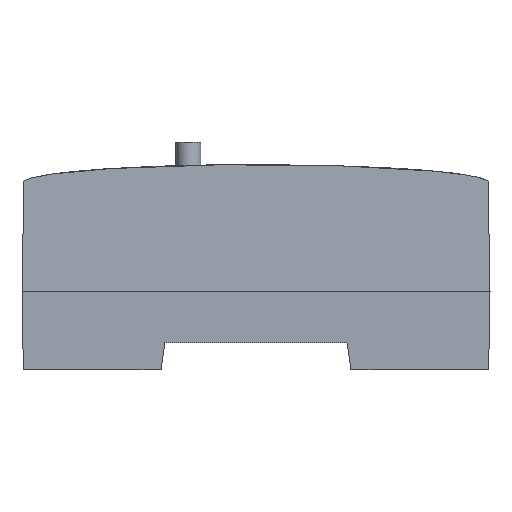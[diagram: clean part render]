
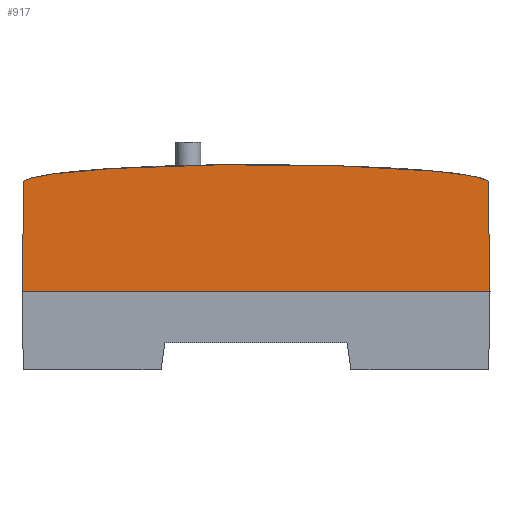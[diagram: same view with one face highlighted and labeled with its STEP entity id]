
A CAD part, left-side view. The second image highlights one B-rep face of the part: STEP entity #917.
In plain terms, the highlighted planar face has unit normal (-1, 0, 0.018).
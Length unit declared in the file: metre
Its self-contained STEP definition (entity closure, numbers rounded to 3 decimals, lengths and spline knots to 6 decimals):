
#29=B_SPLINE_CURVE_WITH_KNOTS('',3,(#1424,#1425,#1426,#1427,#1428,#1429,#1430,#1431,#1432,#1433,#1434,#1435,#1436,#1437,#1438,#1439,#1440,#1441,#1442,#1443,#1444,#1445,#1446,#1447,#1448,#1449,#1450,#1451,#1452,#1453,#1454),.UNSPECIFIED.,.F.,.F.,(4,1,1,1,1,1,1,1,1,1,1,1,1,1,1,1,1,1,1,1,1,1,1,1,1,1,1,1,4),(0.00029,0.001001,0.001712,0.003134,0.004556,0.005977,0.008821,0.011665,0.014508,0.017352,0.023039,0.028726,0.034414,0.040101,0.045788,0.051476,0.057163,0.06285,0.068537,0.074225,0.077068,0.079912,0.082756,0.085599,0.087021,0.088443,0.089865,0.090576,0.091286),.UNSPECIFIED.);
#156=ORIENTED_EDGE('',*,*,#334,.F.);
#157=ORIENTED_EDGE('',*,*,#351,.T.);
#158=ORIENTED_EDGE('',*,*,#366,.T.);
#159=ORIENTED_EDGE('',*,*,#319,.T.);
#319=EDGE_CURVE('',#435,#438,#526,.T.);
#334=EDGE_CURVE('',#445,#438,#541,.F.);
#351=EDGE_CURVE('',#445,#460,#29,.T.);
#366=EDGE_CURVE('',#460,#435,#563,.T.);
#435=VERTEX_POINT('',#1301);
#438=VERTEX_POINT('',#1310);
#445=VERTEX_POINT('',#1339);
#460=VERTEX_POINT('',#1423);
#526=LINE('',#1311,#631);
#541=LINE('',#1340,#646);
#563=LINE('',#1563,#668);
#631=VECTOR('',#1071,1.);
#646=VECTOR('',#1100,1.);
#668=VECTOR('',#1126,1.);
#734=EDGE_LOOP('',(#156,#157,#158,#159));
#809=FACE_BOUND('',#734,.T.);
#874=PLANE('',#987);
#917=ADVANCED_FACE('',(#809),#874,.T.);
#987=AXIS2_PLACEMENT_3D('',#1565,#1128,#1129);
#1071=DIRECTION('',(0.,-1.,0.));
#1100=DIRECTION('',(0.017,0.017,1.));
#1126=DIRECTION('',(-0.017,0.017,-1.));
#1128=DIRECTION('',(-1.,0.,0.017));
#1129=DIRECTION('',(0.017,0.,1.));
#1301=CARTESIAN_POINT('',(-0.05375,0.045,0.));
#1310=CARTESIAN_POINT('',(-0.05375,-0.045,0.));
#1311=CARTESIAN_POINT('',(-0.05375,0.,0.));
#1339=CARTESIAN_POINT('',(-0.053379,-0.044629,0.021257));
#1340=CARTESIAN_POINT('',(-0.053736,-0.044986,0.000785));
#1423=CARTESIAN_POINT('',(-0.053379,0.044629,0.021257));
#1424=CARTESIAN_POINT('',(-0.053379,-0.044629,0.021257));
#1425=CARTESIAN_POINT('',(-0.053376,-0.044466,0.02143));
#1426=CARTESIAN_POINT('',(-0.053372,-0.044033,0.021638));
#1427=CARTESIAN_POINT('',(-0.053367,-0.043149,0.021949));
#1428=CARTESIAN_POINT('',(-0.053362,-0.042009,0.022217));
#1429=CARTESIAN_POINT('',(-0.053358,-0.040632,0.022474));
#1430=CARTESIAN_POINT('',(-0.053353,-0.038781,0.022758));
#1431=CARTESIAN_POINT('',(-0.053348,-0.036458,0.023041));
#1432=CARTESIAN_POINT('',(-0.053343,-0.033663,0.023314));
#1433=CARTESIAN_POINT('',(-0.053339,-0.030864,0.02354));
#1434=CARTESIAN_POINT('',(-0.053335,-0.027129,0.023795));
#1435=CARTESIAN_POINT('',(-0.05333,-0.022456,0.024041));
#1436=CARTESIAN_POINT('',(-0.053327,-0.016844,0.024254));
#1437=CARTESIAN_POINT('',(-0.053324,-0.011229,0.024398));
#1438=CARTESIAN_POINT('',(-0.053323,-0.005614,0.024482));
#1439=CARTESIAN_POINT('',(-0.053322,0.000002,0.024509));
#1440=CARTESIAN_POINT('',(-0.053323,0.005618,0.024482));
#1441=CARTESIAN_POINT('',(-0.053324,0.011233,0.024398));
#1442=CARTESIAN_POINT('',(-0.053327,0.016848,0.024254));
#1443=CARTESIAN_POINT('',(-0.05333,0.02246,0.024041));
#1444=CARTESIAN_POINT('',(-0.053335,0.027133,0.023794));
#1445=CARTESIAN_POINT('',(-0.053339,0.030868,0.02354));
#1446=CARTESIAN_POINT('',(-0.053343,0.033667,0.023314));
#1447=CARTESIAN_POINT('',(-0.053348,0.036462,0.02304));
#1448=CARTESIAN_POINT('',(-0.053353,0.038785,0.022757));
#1449=CARTESIAN_POINT('',(-0.053358,0.040636,0.022474));
#1450=CARTESIAN_POINT('',(-0.053362,0.042016,0.022216));
#1451=CARTESIAN_POINT('',(-0.053367,0.043158,0.021946));
#1452=CARTESIAN_POINT('',(-0.053372,0.044038,0.021636));
#1453=CARTESIAN_POINT('',(-0.053376,0.044467,0.021429));
#1454=CARTESIAN_POINT('',(-0.053379,0.044629,0.021257));
#1563=CARTESIAN_POINT('',(-0.053736,0.044986,0.000785));
#1565=CARTESIAN_POINT('',(-0.05375,0.,0.));
